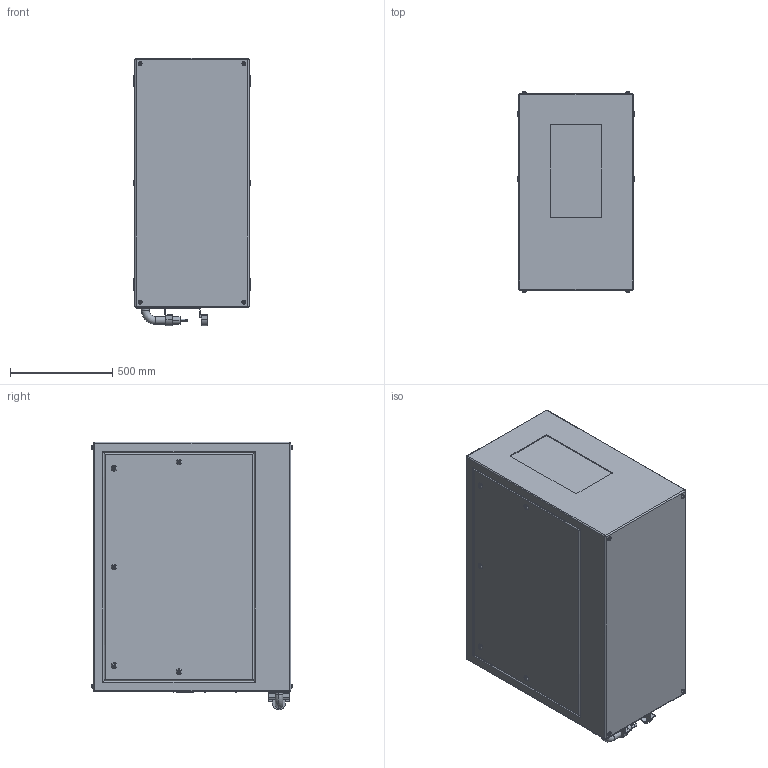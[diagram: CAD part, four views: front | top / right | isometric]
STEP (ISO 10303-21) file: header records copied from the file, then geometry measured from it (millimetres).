
FILE_DESCRIPTION (( 'STEP AP214' ), '1' );
FILE_NAME ('Oasis 59.150.P R02.STEP', '2022-09-12T23:35:44', ( '' ), ( '' ), 'SwSTEP 2.0', 'SolidWorks 2020', '' );
FILE_SCHEMA (( 'AUTOMOTIVE_DESIGN' ));
Length unit declared in the file: inch
Products named in the file (1): Oasis 59.150.P R02
Bounding box: 571.5 x 982.47 x 1308.1 mm (x, y, z)
Volume: 656729707.4 mm3; surface area: 5366080.1 mm2
Topology: 3 solids, 9 shells, 540 faces, 1233 edges, 782 vertices
Faces by surface type: plane 297, cylinder 185, torus 50, bspline 8
Entity records: 20635 total; most frequent: CARTESIAN_POINT 3068, DIRECTION 2691, ORIENTED_EDGE 2450, EDGE_CURVE 1225, AXIS2_PLACEMENT_3D 965, VERTEX_POINT 782, LINE 761, VECTOR 761
